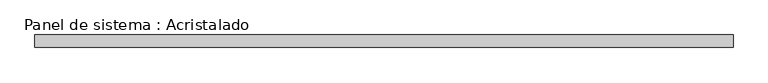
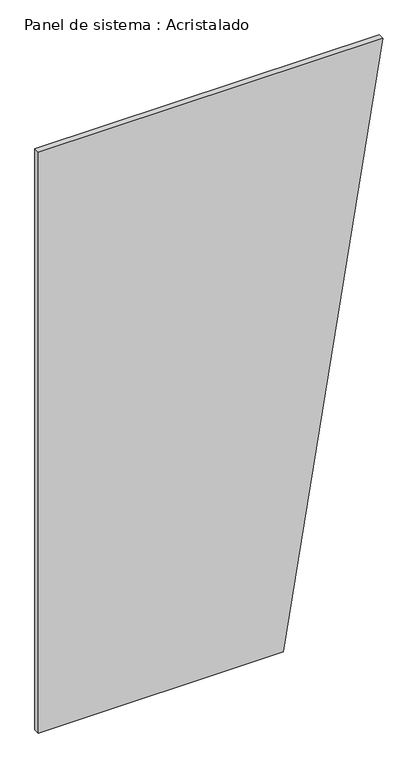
"""IFC4 building model written with IfcOpenShell, lengths in millimetres: plate geometry, Panel de sistema : Acristalado."""

from ifc_helpers import new_model, si_unit, frame, origin, place, context, project, spatial, polyline, outline, extrude, source, transform, mapped, element, save


def panel_de_sistema_acristalado_d22bfecd(model_context):
    return source(origin(), model_context, "Body", "SweptSolid", [
        extrude(outline(polyline([(0.0, -555.1344387), (0.0, 234.7460892), (1980.0, 555.1344387), (1980.0, -555.1344387), (0.0, -555.1344387)])), frame((0.0, -10.0, 0.0), z_axis=(0.0, 1.0, 0.0), x_axis=(0.0, 0.0, 1.0)), (0.0, 0.0, 1.0), 20.0),
    ])


if __name__ == "__main__":
    model = new_model("IFC4")
    model_context = context("Model", 3, world=origin())
    ifc_project = project(units=[si_unit("LENGTHUNIT", "METRE", prefix="MILLI")], contexts=[model_context])
    site = spatial("IfcSite", under=ifc_project)
    building = spatial("IfcBuilding", under=site)
    placement = place(None, origin())
    panel_de_sistema_acristalado_shape = panel_de_sistema_acristalado_d22bfecd(model_context)
    element("IfcPlate", 1, ObjectType="Panel de sistema : Acristalado", at=placement, inside=building, context=model_context, shape_type="MappedRepresentation", body=[
        mapped(panel_de_sistema_acristalado_shape, transform((0.0, 0.0, 0.0), x_axis=(1.0, 0.0, 0.0), y_axis=(0.0, 1.0, 0.0), z_axis=(0.0, 0.0, 1.0))),
    ])
    save(model, "model.ifc")
